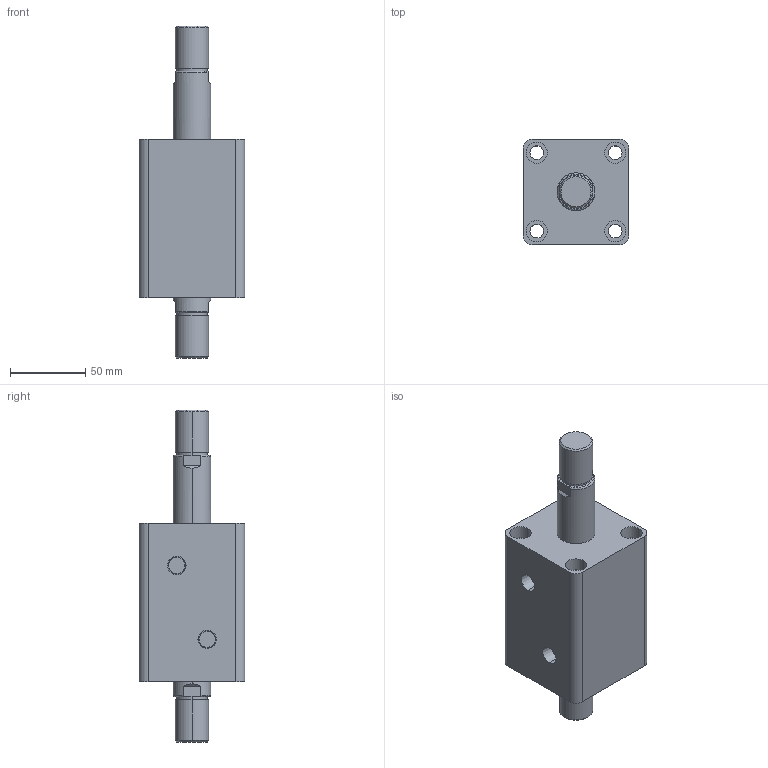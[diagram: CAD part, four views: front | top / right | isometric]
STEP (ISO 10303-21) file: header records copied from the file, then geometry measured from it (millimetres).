
FILE_DESCRIPTION (( 'STEP AP203' ), '1' );
FILE_NAME ('HTB-SW40-35W.STEP', '2019-10-07T09:07:22', ( '微软用户' ), ( '微软中国' ), 'SwSTEP 2.0', 'SolidWorks 2012', '' );
FILE_SCHEMA (( 'CONFIG_CONTROL_DESIGN' ));
Length unit declared in the file: millimetre
Products named in the file (3): HTB-SW40-35W; HTB-SW40-35W活塞杆; HTB-SW40-35掛极
Assembly tree (2 placements, depth 2):
  HTB-SW40-35W
    HTB-SW40-35掛极
    HTB-SW40-35W活塞杆
Bounding box: 70 x 70 x 220 mm (x, y, z)
Volume: 498278.5 mm3; surface area: 82455.2 mm2
Topology: 2 solids, 2 shells, 108 faces, 240 edges, 156 vertices
Faces by surface type: cylinder 52, plane 36, torus 12, cone 8
Entity records: 3449 total; most frequent: CARTESIAN_POINT 629, DIRECTION 586, ORIENTED_EDGE 480, AXIS2_PLACEMENT_3D 249, EDGE_CURVE 240, VERTEX_POINT 156, EDGE_LOOP 138, CIRCLE 136
